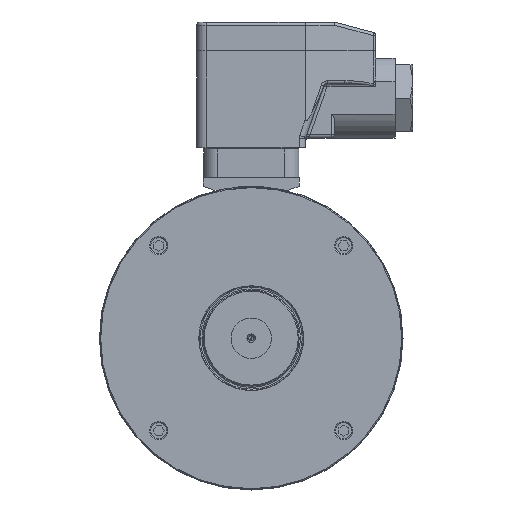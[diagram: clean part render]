
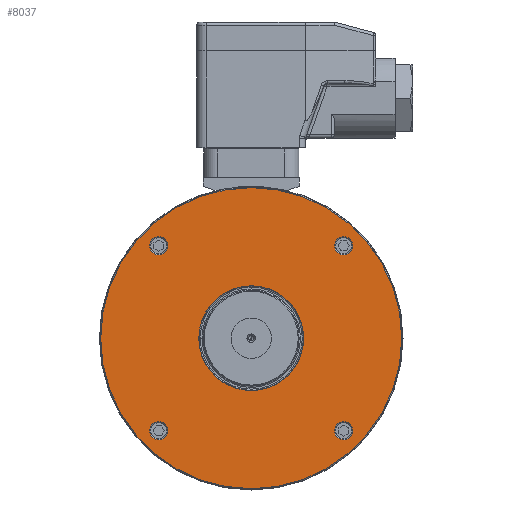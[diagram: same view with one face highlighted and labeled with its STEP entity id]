
A CAD part, left-side view. The second image highlights one B-rep face of the part: STEP entity #8037.
In plain terms, the highlighted planar face has unit normal (-1, 0, 0).
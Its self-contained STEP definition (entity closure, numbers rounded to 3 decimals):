
#6335 = EDGE_LOOP ( 'NONE', ( #7823, #7994 ) ) ;
#7335 = EDGE_CURVE ( 'NONE', #7336, #7429, #22536, .T. ) ;
#7336 = VERTEX_POINT ( 'NONE', #22527 ) ;
#7429 = VERTEX_POINT ( 'NONE', #22608 ) ;
#7442 = VERTEX_POINT ( 'NONE', #22794 ) ;
#7461 = VERTEX_POINT ( 'NONE', #22854 ) ;
#7473 = EDGE_CURVE ( 'NONE', #7461, #7474, #22959, .T. ) ;
#7474 = VERTEX_POINT ( 'NONE', #22944 ) ;
#7533 = VERTEX_POINT ( 'NONE', #23286 ) ;
#7534 = EDGE_CURVE ( 'NONE', #7533, #7552, #23125, .T. ) ;
#7552 = VERTEX_POINT ( 'NONE', #23003 ) ;
#7643 = EDGE_CURVE ( 'NONE', #7442, #7648, #23513, .T. ) ;
#7648 = VERTEX_POINT ( 'NONE', #23539 ) ;
#7682 = VERTEX_POINT ( 'NONE', #23652 ) ;
#7685 = EDGE_CURVE ( 'NONE', #7682, #7718, #23646, .T. ) ;
#7688 = VERTEX_POINT ( 'NONE', #23645 ) ;
#7690 = VERTEX_POINT ( 'NONE', #23637 ) ;
#7701 = EDGE_CURVE ( 'NONE', #7688, #7690, #23486, .T. ) ;
#7718 = VERTEX_POINT ( 'NONE', #23444 ) ;
#7823 = ORIENTED_EDGE ( 'NONE', *, *, #7643, .T. ) ;
#7986 = EDGE_LOOP ( 'NONE', ( #8114, #8116 ) ) ;
#7987 = EDGE_CURVE ( 'NONE', #7690, #7688, #23980, .T. ) ;
#7988 = ORIENTED_EDGE ( 'NONE', *, *, #7335, .T. ) ;
#7989 = EDGE_LOOP ( 'NONE', ( #7992, #7990 ) ) ;
#7990 = ORIENTED_EDGE ( 'NONE', *, *, #7997, .T. ) ;
#7991 = ORIENTED_EDGE ( 'NONE', *, *, #7701, .T. ) ;
#7992 = ORIENTED_EDGE ( 'NONE', *, *, #7685, .T. ) ;
#7994 = ORIENTED_EDGE ( 'NONE', *, *, #7996, .T. ) ;
#7995 = ORIENTED_EDGE ( 'NONE', *, *, #8000, .T. ) ;
#7996 = EDGE_CURVE ( 'NONE', #7648, #7442, #23976, .T. ) ;
#7997 = EDGE_CURVE ( 'NONE', #7718, #7682, #23988, .T. ) ;
#7998 = ORIENTED_EDGE ( 'NONE', *, *, #7987, .T. ) ;
#7999 = EDGE_LOOP ( 'NONE', ( #7988, #7995 ) ) ;
#8000 = EDGE_CURVE ( 'NONE', #7429, #7336, #22691, .T. ) ;
#8001 = EDGE_LOOP ( 'NONE', ( #7991, #7998 ) ) ;
#8037 = ADVANCED_FACE ( 'NONE', ( #24371, #24328, #24336, #24338, #24327, #24332 ), #24370, .T. ) ;
#8111 = ORIENTED_EDGE ( 'NONE', *, *, #8112, .T. ) ;
#8112 = EDGE_CURVE ( 'NONE', #7552, #7533, #24240, .T. ) ;
#8113 = EDGE_LOOP ( 'NONE', ( #8128, #8111 ) ) ;
#8114 = ORIENTED_EDGE ( 'NONE', *, *, #7473, .F. ) ;
#8116 = ORIENTED_EDGE ( 'NONE', *, *, #8130, .F. ) ;
#8128 = ORIENTED_EDGE ( 'NONE', *, *, #7534, .T. ) ;
#8130 = EDGE_CURVE ( 'NONE', #7474, #7461, #24198, .T. ) ;
#21265 = DIRECTION ( 'NONE',  ( 1., 0., 0. ) ) ;
#21266 = CARTESIAN_POINT ( 'NONE',  ( -140., 28.921, 28.921 ) ) ;
#21764 = DIRECTION ( 'NONE',  ( 0., -1., 0. ) ) ;
#22337 = AXIS2_PLACEMENT_3D ( 'NONE', #22339, #22689, #23039 ) ;
#22339 = CARTESIAN_POINT ( 'NONE',  ( -140., -28.921, -28.921 ) ) ;
#22524 = DIRECTION ( 'NONE',  ( 0., -1., 0. ) ) ;
#22525 = DIRECTION ( 'NONE',  ( 1., 0., 0. ) ) ;
#22526 = CARTESIAN_POINT ( 'NONE',  ( -140., -28.921, -28.921 ) ) ;
#22527 = CARTESIAN_POINT ( 'NONE',  ( -140., -28.921, -26.071 ) ) ;
#22536 = CIRCLE ( 'NONE', #22544, 2.85 ) ;
#22544 = AXIS2_PLACEMENT_3D ( 'NONE', #22526, #22525, #22524 ) ;
#22608 = CARTESIAN_POINT ( 'NONE',  ( -140., -28.921, -31.771 ) ) ;
#22689 = DIRECTION ( 'NONE',  ( 1., 0., 0. ) ) ;
#22691 = CIRCLE ( 'NONE', #22337, 2.85 ) ;
#22794 = CARTESIAN_POINT ( 'NONE',  ( -140., -28.921, 31.771 ) ) ;
#22854 = CARTESIAN_POINT ( 'NONE',  ( -140., -47.1, 0. ) ) ;
#22876 = CARTESIAN_POINT ( 'NONE',  ( -140., 0., 0. ) ) ;
#22934 = DIRECTION ( 'NONE',  ( 0., 1., 0. ) ) ;
#22936 = DIRECTION ( 'NONE',  ( 1., 0., 0. ) ) ;
#22944 = CARTESIAN_POINT ( 'NONE',  ( -140., 47.1, 0. ) ) ;
#22951 = AXIS2_PLACEMENT_3D ( 'NONE', #22876, #22936, #22934 ) ;
#22959 = CIRCLE ( 'NONE', #22951, 47.1 ) ;
#23003 = CARTESIAN_POINT ( 'NONE',  ( -140., -16.4, 0. ) ) ;
#23039 = DIRECTION ( 'NONE',  ( 0., -1., 0. ) ) ;
#23122 = DIRECTION ( 'NONE',  ( 0., 1., 0. ) ) ;
#23123 = DIRECTION ( 'NONE',  ( 1., 0., 0. ) ) ;
#23124 = AXIS2_PLACEMENT_3D ( 'NONE', #23280, #23123, #23122 ) ;
#23125 = CIRCLE ( 'NONE', #23124, 16.4 ) ;
#23280 = CARTESIAN_POINT ( 'NONE',  ( -140., 0., 0. ) ) ;
#23286 = CARTESIAN_POINT ( 'NONE',  ( -140., 16.4, 0. ) ) ;
#23444 = CARTESIAN_POINT ( 'NONE',  ( -140., 28.921, 26.071 ) ) ;
#23482 = DIRECTION ( 'NONE',  ( 0., -1., 0. ) ) ;
#23483 = DIRECTION ( 'NONE',  ( 1., 0., 0. ) ) ;
#23484 = CARTESIAN_POINT ( 'NONE',  ( -140., 28.921, -28.921 ) ) ;
#23485 = AXIS2_PLACEMENT_3D ( 'NONE', #23484, #23483, #23482 ) ;
#23486 = CIRCLE ( 'NONE', #23485, 2.85 ) ;
#23513 = CIRCLE ( 'NONE', #23520, 2.85 ) ;
#23520 = AXIS2_PLACEMENT_3D ( 'NONE', #23548, #23547, #23546 ) ;
#23539 = CARTESIAN_POINT ( 'NONE',  ( -140., -28.921, 26.071 ) ) ;
#23546 = DIRECTION ( 'NONE',  ( 0., -1., 0. ) ) ;
#23547 = DIRECTION ( 'NONE',  ( 1., 0., 0. ) ) ;
#23548 = CARTESIAN_POINT ( 'NONE',  ( -140., -28.921, 28.921 ) ) ;
#23637 = CARTESIAN_POINT ( 'NONE',  ( -140., 28.921, -31.771 ) ) ;
#23639 = DIRECTION ( 'NONE',  ( 0., -1., 0. ) ) ;
#23640 = DIRECTION ( 'NONE',  ( 1., 0., 0. ) ) ;
#23641 = CARTESIAN_POINT ( 'NONE',  ( -140., 28.921, 28.921 ) ) ;
#23642 = AXIS2_PLACEMENT_3D ( 'NONE', #23641, #23640, #23639 ) ;
#23645 = CARTESIAN_POINT ( 'NONE',  ( -140., 28.921, -26.071 ) ) ;
#23646 = CIRCLE ( 'NONE', #23642, 2.85 ) ;
#23652 = CARTESIAN_POINT ( 'NONE',  ( -140., 28.921, 31.771 ) ) ;
#23964 = DIRECTION ( 'NONE',  ( 0., -1., 0. ) ) ;
#23965 = DIRECTION ( 'NONE',  ( 1., 0., 0. ) ) ;
#23968 = AXIS2_PLACEMENT_3D ( 'NONE', #21266, #21265, #21764 ) ;
#23971 = DIRECTION ( 'NONE',  ( 0., -1., 0. ) ) ;
#23972 = DIRECTION ( 'NONE',  ( 1., 0., 0. ) ) ;
#23973 = CARTESIAN_POINT ( 'NONE',  ( -140., 28.921, -28.921 ) ) ;
#23974 = AXIS2_PLACEMENT_3D ( 'NONE', #23973, #23972, #23971 ) ;
#23976 = CIRCLE ( 'NONE', #23979, 2.85 ) ;
#23978 = CARTESIAN_POINT ( 'NONE',  ( -140., -28.921, 28.921 ) ) ;
#23979 = AXIS2_PLACEMENT_3D ( 'NONE', #23978, #23965, #23964 ) ;
#23980 = CIRCLE ( 'NONE', #23974, 2.85 ) ;
#23988 = CIRCLE ( 'NONE', #23968, 2.85 ) ;
#24194 = DIRECTION ( 'NONE',  ( 0., 1., 0. ) ) ;
#24195 = DIRECTION ( 'NONE',  ( 1., 0., 0. ) ) ;
#24196 = CARTESIAN_POINT ( 'NONE',  ( -140., 0., 0. ) ) ;
#24197 = AXIS2_PLACEMENT_3D ( 'NONE', #24196, #24195, #24194 ) ;
#24198 = CIRCLE ( 'NONE', #24197, 47.1 ) ;
#24232 = DIRECTION ( 'NONE',  ( 0., 1., 0. ) ) ;
#24233 = DIRECTION ( 'NONE',  ( 1., 0., 0. ) ) ;
#24234 = CARTESIAN_POINT ( 'NONE',  ( -140., 0., 0. ) ) ;
#24238 = AXIS2_PLACEMENT_3D ( 'NONE', #24234, #24233, #24232 ) ;
#24240 = CIRCLE ( 'NONE', #24238, 16.4 ) ;
#24321 = DIRECTION ( 'NONE',  ( 0., 1., 0. ) ) ;
#24322 = DIRECTION ( 'NONE',  ( -1., 0., 0. ) ) ;
#24323 = CARTESIAN_POINT ( 'NONE',  ( -140., 16.4, 0. ) ) ;
#24327 = FACE_OUTER_BOUND ( 'NONE', #7986, .T. ) ;
#24328 = FACE_BOUND ( 'NONE', #7999, .T. ) ;
#24332 = FACE_BOUND ( 'NONE', #8113, .T. ) ;
#24333 = AXIS2_PLACEMENT_3D ( 'NONE', #24323, #24322, #24321 ) ;
#24336 = FACE_BOUND ( 'NONE', #8001, .T. ) ;
#24338 = FACE_BOUND ( 'NONE', #7989, .T. ) ;
#24370 = PLANE ( 'NONE',  #24333 ) ;
#24371 = FACE_BOUND ( 'NONE', #6335, .T. ) ;
